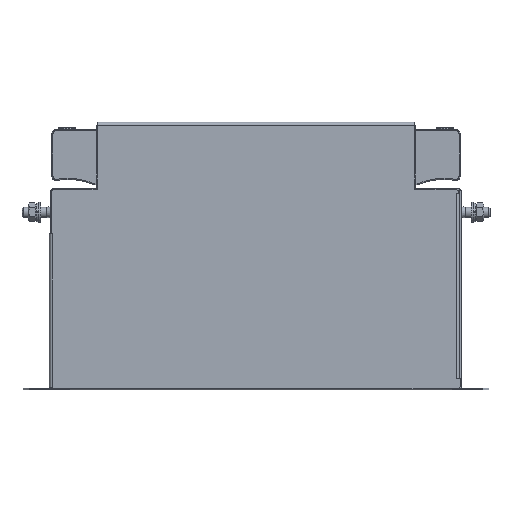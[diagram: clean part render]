
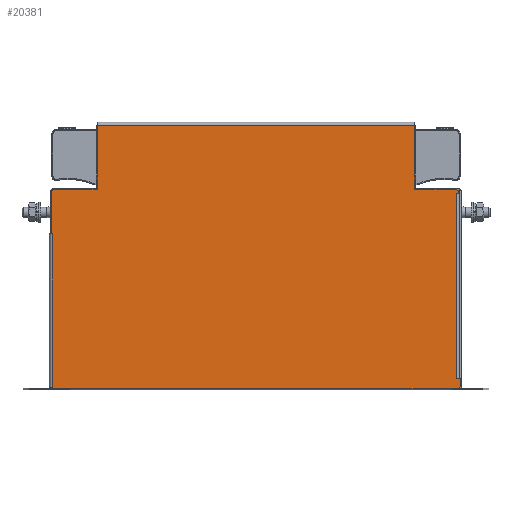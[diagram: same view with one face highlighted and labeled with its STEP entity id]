
A CAD part, top view. The second image highlights one B-rep face of the part: STEP entity #20381.
In plain terms, the highlighted planar face has unit normal (0, 0, 1).
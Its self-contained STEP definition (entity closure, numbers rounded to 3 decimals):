
#2035=LINE('',#33696,#3946);
#2036=LINE('',#33698,#3947);
#2037=LINE('',#33700,#3948);
#2038=LINE('',#33702,#3949);
#2039=LINE('',#33704,#3950);
#2040=LINE('',#33706,#3951);
#2041=LINE('',#33708,#3952);
#2042=LINE('',#33710,#3953);
#2043=LINE('',#33712,#3954);
#2044=LINE('',#33714,#3955);
#2045=LINE('',#33716,#3956);
#2046=LINE('',#33718,#3957);
#2047=LINE('',#33720,#3958);
#2048=LINE('',#33722,#3959);
#2049=LINE('',#33724,#3960);
#2050=LINE('',#33726,#3961);
#2051=LINE('',#33728,#3962);
#2052=LINE('',#33730,#3963);
#2053=LINE('',#33732,#3964);
#2054=LINE('',#33734,#3965);
#2055=LINE('',#33736,#3966);
#2056=LINE('',#33738,#3967);
#2057=LINE('',#33740,#3968);
#2058=LINE('',#33742,#3969);
#2059=LINE('',#33744,#3970);
#2060=LINE('',#33746,#3971);
#2061=LINE('',#33747,#3972);
#3946=VECTOR('',#27622,10.);
#3947=VECTOR('',#27623,10.);
#3948=VECTOR('',#27624,10.);
#3949=VECTOR('',#27625,10.);
#3950=VECTOR('',#27626,10.);
#3951=VECTOR('',#27627,10.);
#3952=VECTOR('',#27628,10.);
#3953=VECTOR('',#27629,10.);
#3954=VECTOR('',#27630,10.);
#3955=VECTOR('',#27631,10.);
#3956=VECTOR('',#27632,10.);
#3957=VECTOR('',#27633,10.);
#3958=VECTOR('',#27634,10.);
#3959=VECTOR('',#27635,10.);
#3960=VECTOR('',#27636,10.);
#3961=VECTOR('',#27637,10.);
#3962=VECTOR('',#27638,10.);
#3963=VECTOR('',#27639,10.);
#3964=VECTOR('',#27640,10.);
#3965=VECTOR('',#27641,10.);
#3966=VECTOR('',#27642,10.);
#3967=VECTOR('',#27643,10.);
#3968=VECTOR('',#27644,10.);
#3969=VECTOR('',#27645,10.);
#3970=VECTOR('',#27646,10.);
#3971=VECTOR('',#27647,10.);
#3972=VECTOR('',#27648,10.);
#4710=PLANE('',#22215);
#7146=FACE_OUTER_BOUND('',#8446,.T.);
#8446=EDGE_LOOP('',(#18669,#18670,#18671,#18672,#18673,#18674,#18675,#18676,
#18677,#18678,#18679,#18680,#18681,#18682,#18683,#18684,#18685,#18686,#18687,
#18688,#18689,#18690,#18691,#18692,#18693,#18694,#18695));
#10843=VERTEX_POINT('',#33694);
#10844=VERTEX_POINT('',#33695);
#10845=VERTEX_POINT('',#33697);
#10846=VERTEX_POINT('',#33699);
#10847=VERTEX_POINT('',#33701);
#10848=VERTEX_POINT('',#33703);
#10849=VERTEX_POINT('',#33705);
#10850=VERTEX_POINT('',#33707);
#10851=VERTEX_POINT('',#33709);
#10852=VERTEX_POINT('',#33711);
#10853=VERTEX_POINT('',#33713);
#10854=VERTEX_POINT('',#33715);
#10855=VERTEX_POINT('',#33717);
#10856=VERTEX_POINT('',#33719);
#10857=VERTEX_POINT('',#33721);
#10858=VERTEX_POINT('',#33723);
#10859=VERTEX_POINT('',#33725);
#10860=VERTEX_POINT('',#33727);
#10861=VERTEX_POINT('',#33729);
#10862=VERTEX_POINT('',#33731);
#10863=VERTEX_POINT('',#33733);
#10864=VERTEX_POINT('',#33735);
#10865=VERTEX_POINT('',#33737);
#10866=VERTEX_POINT('',#33739);
#10867=VERTEX_POINT('',#33741);
#10868=VERTEX_POINT('',#33743);
#10869=VERTEX_POINT('',#33745);
#13482=EDGE_CURVE('',#10843,#10844,#2035,.T.);
#13483=EDGE_CURVE('',#10845,#10843,#2036,.T.);
#13484=EDGE_CURVE('',#10845,#10846,#2037,.T.);
#13485=EDGE_CURVE('',#10846,#10847,#2038,.T.);
#13486=EDGE_CURVE('',#10847,#10848,#2039,.T.);
#13487=EDGE_CURVE('',#10848,#10849,#2040,.T.);
#13488=EDGE_CURVE('',#10849,#10850,#2041,.T.);
#13489=EDGE_CURVE('',#10850,#10851,#2042,.T.);
#13490=EDGE_CURVE('',#10851,#10852,#2043,.T.);
#13491=EDGE_CURVE('',#10853,#10852,#2044,.T.);
#13492=EDGE_CURVE('',#10854,#10853,#2045,.T.);
#13493=EDGE_CURVE('',#10854,#10855,#2046,.T.);
#13494=EDGE_CURVE('',#10855,#10856,#2047,.T.);
#13495=EDGE_CURVE('',#10856,#10857,#2048,.T.);
#13496=EDGE_CURVE('',#10857,#10858,#2049,.T.);
#13497=EDGE_CURVE('',#10858,#10859,#2050,.T.);
#13498=EDGE_CURVE('',#10860,#10859,#2051,.T.);
#13499=EDGE_CURVE('',#10861,#10860,#2052,.T.);
#13500=EDGE_CURVE('',#10861,#10862,#2053,.T.);
#13501=EDGE_CURVE('',#10862,#10863,#2054,.T.);
#13502=EDGE_CURVE('',#10863,#10864,#2055,.T.);
#13503=EDGE_CURVE('',#10864,#10865,#2056,.T.);
#13504=EDGE_CURVE('',#10865,#10866,#2057,.T.);
#13505=EDGE_CURVE('',#10866,#10867,#2058,.T.);
#13506=EDGE_CURVE('',#10867,#10868,#2059,.T.);
#13507=EDGE_CURVE('',#10869,#10868,#2060,.T.);
#13508=EDGE_CURVE('',#10844,#10869,#2061,.T.);
#18669=ORIENTED_EDGE('',*,*,#13482,.F.);
#18670=ORIENTED_EDGE('',*,*,#13483,.F.);
#18671=ORIENTED_EDGE('',*,*,#13484,.T.);
#18672=ORIENTED_EDGE('',*,*,#13485,.T.);
#18673=ORIENTED_EDGE('',*,*,#13486,.T.);
#18674=ORIENTED_EDGE('',*,*,#13487,.T.);
#18675=ORIENTED_EDGE('',*,*,#13488,.T.);
#18676=ORIENTED_EDGE('',*,*,#13489,.T.);
#18677=ORIENTED_EDGE('',*,*,#13490,.T.);
#18678=ORIENTED_EDGE('',*,*,#13491,.F.);
#18679=ORIENTED_EDGE('',*,*,#13492,.F.);
#18680=ORIENTED_EDGE('',*,*,#13493,.T.);
#18681=ORIENTED_EDGE('',*,*,#13494,.T.);
#18682=ORIENTED_EDGE('',*,*,#13495,.T.);
#18683=ORIENTED_EDGE('',*,*,#13496,.T.);
#18684=ORIENTED_EDGE('',*,*,#13497,.T.);
#18685=ORIENTED_EDGE('',*,*,#13498,.F.);
#18686=ORIENTED_EDGE('',*,*,#13499,.F.);
#18687=ORIENTED_EDGE('',*,*,#13500,.T.);
#18688=ORIENTED_EDGE('',*,*,#13501,.T.);
#18689=ORIENTED_EDGE('',*,*,#13502,.T.);
#18690=ORIENTED_EDGE('',*,*,#13503,.T.);
#18691=ORIENTED_EDGE('',*,*,#13504,.T.);
#18692=ORIENTED_EDGE('',*,*,#13505,.T.);
#18693=ORIENTED_EDGE('',*,*,#13506,.T.);
#18694=ORIENTED_EDGE('',*,*,#13507,.F.);
#18695=ORIENTED_EDGE('',*,*,#13508,.F.);
#20381=ADVANCED_FACE('',(#7146),#4710,.T.);
#22215=AXIS2_PLACEMENT_3D('',#33693,#27620,#27621);
#27620=DIRECTION('center_axis',(0.,0.,
1.));
#27621=DIRECTION('ref_axis',(1.,0.,0.));
#27622=DIRECTION('',(-0.707,-0.707,0.));
#27623=DIRECTION('',(0.,-1.,0.));
#27624=DIRECTION('',(-1.,0.,0.));
#27625=DIRECTION('',(0.,1.,0.));
#27626=DIRECTION('',(1.,0.,0.));
#27627=DIRECTION('',(0.,1.,0.));
#27628=DIRECTION('',(-1.,0.,0.));
#27629=DIRECTION('',(0.,1.,0.));
#27630=DIRECTION('',(1.,0.,0.));
#27631=DIRECTION('',(0.,-1.,0.));
#27632=DIRECTION('',(0.707,-0.707,0.));
#27633=DIRECTION('',(-1.,0.,0.));
#27634=DIRECTION('',(0.,1.,0.));
#27635=DIRECTION('',(-1.,0.,0.));
#27636=DIRECTION('',(0.,-1.,0.));
#27637=DIRECTION('',(-1.,0.,0.));
#27638=DIRECTION('',(0.707,0.707,0.));
#27639=DIRECTION('',(0.,1.,0.));
#27640=DIRECTION('',(1.,0.,0.));
#27641=DIRECTION('',(0.,-1.,0.));
#27642=DIRECTION('',(-1.,0.,0.));
#27643=DIRECTION('',(0.,-1.,0.));
#27644=DIRECTION('',(1.,0.,0.));
#27645=DIRECTION('',(0.,-1.,0.));
#27646=DIRECTION('',(-1.,0.,0.));
#27647=DIRECTION('',(0.,1.,0.));
#27648=DIRECTION('',(-1.,0.,0.));
#33693=CARTESIAN_POINT('Origin',(0.,66.25,24.95));
#33694=CARTESIAN_POINT('',(100.75,1.5,24.95));
#33695=CARTESIAN_POINT('',(99.75,0.5,24.95));
#33696=CARTESIAN_POINT('',(91.5,-7.75,24.95));
#33697=CARTESIAN_POINT('',(100.75,5.49,24.95));
#33698=CARTESIAN_POINT('',(100.75,5.49,24.95));
#33699=CARTESIAN_POINT('',(98.94,5.49,24.95));
#33700=CARTESIAN_POINT('',(49.875,5.49,24.95));
#33701=CARTESIAN_POINT('',(98.94,5.5,24.95));
#33702=CARTESIAN_POINT('',(98.94,35.87,24.95));
#33703=CARTESIAN_POINT('',(98.95,5.5,24.95));
#33704=CARTESIAN_POINT('',(49.47,5.5,24.95));
#33705=CARTESIAN_POINT('',(98.95,97.,24.95));
#33706=CARTESIAN_POINT('',(98.95,35.875,24.95));
#33707=CARTESIAN_POINT('',(98.94,97.,24.95));
#33708=CARTESIAN_POINT('',(49.875,97.,24.95));
#33709=CARTESIAN_POINT('',(98.94,97.01,24.95));
#33710=CARTESIAN_POINT('',(98.94,81.625,24.95));
#33711=CARTESIAN_POINT('',(99.75,97.01,24.95));
#33712=CARTESIAN_POINT('',(49.47,97.01,24.95));
#33713=CARTESIAN_POINT('',(99.75,98.,24.95));
#33714=CARTESIAN_POINT('',(99.75,0.5,24.95));
#33715=CARTESIAN_POINT('',(98.75,99.,24.95));
#33716=CARTESIAN_POINT('',(82.5,115.25,24.95));
#33717=CARTESIAN_POINT('',(78.45,99.,24.95));
#33718=CARTESIAN_POINT('',(49.875,99.,24.95));
#33719=CARTESIAN_POINT('',(78.45,130.5,24.95));
#33720=CARTESIAN_POINT('',(78.45,82.625,24.95));
#33721=CARTESIAN_POINT('',(-78.45,130.5,24.95));
#33722=CARTESIAN_POINT('',(39.225,130.5,24.95));
#33723=CARTESIAN_POINT('',(-78.45,99.,24.95));
#33724=CARTESIAN_POINT('',(-78.45,99.125,24.95));
#33725=CARTESIAN_POINT('',(-99.95,99.,24.95));
#33726=CARTESIAN_POINT('',(-39.225,99.,24.95));
#33727=CARTESIAN_POINT('',(-100.95,98.,24.95));
#33728=CARTESIAN_POINT('',(-83.4,115.55,24.95));
#33729=CARTESIAN_POINT('',(-100.95,77.01,24.95));
#33730=CARTESIAN_POINT('',(-100.95,33.375,24.95));
#33731=CARTESIAN_POINT('',(-100.44,77.01,24.95));
#33732=CARTESIAN_POINT('',(-50.625,77.01,24.95));
#33733=CARTESIAN_POINT('',(-100.44,77.,24.95));
#33734=CARTESIAN_POINT('',(-100.44,71.63,24.95));
#33735=CARTESIAN_POINT('',(-100.45,77.,24.95));
#33736=CARTESIAN_POINT('',(-50.22,77.,24.95));
#33737=CARTESIAN_POINT('',(-100.45,1.,24.95));
#33738=CARTESIAN_POINT('',(-100.45,71.625,24.95));
#33739=CARTESIAN_POINT('',(-100.44,1.,24.95));
#33740=CARTESIAN_POINT('',(-50.625,1.,24.95));
#33741=CARTESIAN_POINT('',(-100.44,0.99,24.95));
#33742=CARTESIAN_POINT('',(-100.44,33.625,24.95));
#33743=CARTESIAN_POINT('',(-100.55,0.99,24.95));
#33744=CARTESIAN_POINT('',(-50.22,0.99,24.95));
#33745=CARTESIAN_POINT('',(-100.55,0.5,24.95));
#33746=CARTESIAN_POINT('',(-100.55,33.375,24.95));
#33747=CARTESIAN_POINT('',(-99.75,0.5,24.95));
